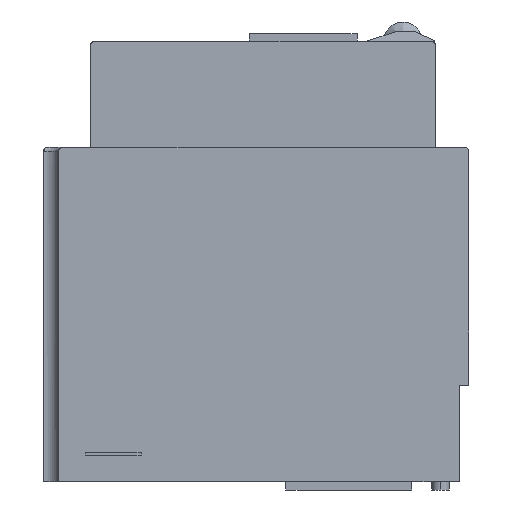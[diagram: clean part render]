
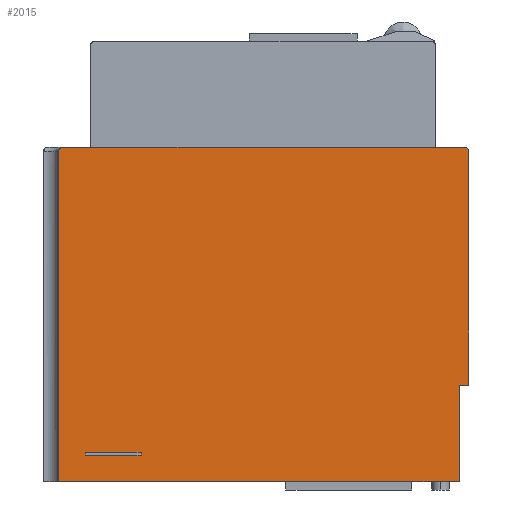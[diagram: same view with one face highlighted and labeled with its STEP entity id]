
A CAD part, left-side view. The second image highlights one B-rep face of the part: STEP entity #2015.
In plain terms, the highlighted planar face has unit normal (-1, 0, 0).
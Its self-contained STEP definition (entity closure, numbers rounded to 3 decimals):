
#58 = VERTEX_POINT ( 'NONE', #882 ) ;
#76 = VECTOR ( 'NONE', #2221, 1000. ) ;
#109 = EDGE_CURVE ( 'NONE', #525, #1826, #2284, .T. ) ;
#182 = CARTESIAN_POINT ( 'NONE',  ( -70., 65.6, 106.5 ) ) ;
#224 = CARTESIAN_POINT ( 'NONE',  ( -70., 95.1, 96. ) ) ;
#340 = AXIS2_PLACEMENT_3D ( 'NONE', #4150, #2337, #2656 ) ;
#375 = CARTESIAN_POINT ( 'NONE',  ( -70., 93.6, 215.5 ) ) ;
#396 = DIRECTION ( 'NONE',  ( 0., 0., -1. ) ) ;
#425 = CARTESIAN_POINT ( 'NONE',  ( -70., 93.6, 214. ) ) ;
#502 = ORIENTED_EDGE ( 'NONE', *, *, #3382, .F. ) ;
#525 = VERTEX_POINT ( 'NONE', #3117 ) ;
#599 = LINE ( 'NONE', #182, #1371 ) ;
#610 = DIRECTION ( 'NONE',  ( 0., -1., 0. ) ) ;
#719 = CARTESIAN_POINT ( 'NONE',  ( -70., 85.6, 106.5 ) ) ;
#721 = EDGE_CURVE ( 'NONE', #4448, #2929, #4358, .T. ) ;
#723 = ORIENTED_EDGE ( 'NONE', *, *, #3661, .F. ) ;
#744 = EDGE_CURVE ( 'NONE', #2178, #856, #1023, .T. ) ;
#757 = EDGE_LOOP ( 'NONE', ( #851, #2236, #2891, #502, #1853, #862, #1774, #723 ) ) ;
#814 = AXIS2_PLACEMENT_3D ( 'NONE', #911, #4102, #1949 ) ;
#851 = ORIENTED_EDGE ( 'NONE', *, *, #3397, .F. ) ;
#856 = VERTEX_POINT ( 'NONE', #4195 ) ;
#862 = ORIENTED_EDGE ( 'NONE', *, *, #3938, .F. ) ;
#878 = ORIENTED_EDGE ( 'NONE', *, *, #2438, .F. ) ;
#882 = CARTESIAN_POINT ( 'NONE',  ( -70., 65.6, 105.5 ) ) ;
#911 = CARTESIAN_POINT ( 'NONE',  ( -70., 99.1, 214. ) ) ;
#925 = AXIS2_PLACEMENT_3D ( 'NONE', #425, #3239, #4285 ) ;
#928 = LINE ( 'NONE', #2397, #2235 ) ;
#948 = CARTESIAN_POINT ( 'NONE',  ( -70., -50.1, 215.5 ) ) ;
#960 = VERTEX_POINT ( 'NONE', #1869 ) ;
#972 = CIRCLE ( 'NONE', #340, 1.5 ) ;
#1023 = CIRCLE ( 'NONE', #925, 1.5 ) ;
#1093 = EDGE_CURVE ( 'NONE', #960, #1115, #2070, .T. ) ;
#1115 = VERTEX_POINT ( 'NONE', #1263 ) ;
#1221 = CARTESIAN_POINT ( 'NONE',  ( -70., 85.6, 106.5 ) ) ;
#1230 = DIRECTION ( 'NONE',  ( 0., 0., 1. ) ) ;
#1263 = CARTESIAN_POINT ( 'NONE',  ( -70., -48.1, 96. ) ) ;
#1313 = ORIENTED_EDGE ( 'NONE', *, *, #2479, .F. ) ;
#1371 = VECTOR ( 'NONE', #3322, 1000. ) ;
#1377 = VERTEX_POINT ( 'NONE', #4580 ) ;
#1431 = CARTESIAN_POINT ( 'NONE',  ( -70., -48.1, 130.5 ) ) ;
#1534 = VECTOR ( 'NONE', #1230, 1000. ) ;
#1591 = DIRECTION ( 'NONE',  ( 0., 0., -1. ) ) ;
#1606 = PLANE ( 'NONE',  #814 ) ;
#1629 = EDGE_CURVE ( 'NONE', #2929, #58, #2826, .T. ) ;
#1774 = ORIENTED_EDGE ( 'NONE', *, *, #109, .F. ) ;
#1826 = VERTEX_POINT ( 'NONE', #3518 ) ;
#1853 = ORIENTED_EDGE ( 'NONE', *, *, #1093, .F. ) ;
#1863 = ORIENTED_EDGE ( 'NONE', *, *, #1629, .F. ) ;
#1869 = CARTESIAN_POINT ( 'NONE',  ( -70., -48.1, 130.5 ) ) ;
#1884 = CARTESIAN_POINT ( 'NONE',  ( -70., -51.6, 214. ) ) ;
#1949 = DIRECTION ( 'NONE',  ( 0., 0., -1. ) ) ;
#2004 = EDGE_LOOP ( 'NONE', ( #1313, #1863, #3644, #878 ) ) ;
#2015 = ADVANCED_FACE ( 'NONE', ( #2056, #3667 ), #1606, .F. ) ;
#2056 = FACE_BOUND ( 'NONE', #2004, .T. ) ;
#2070 = LINE ( 'NONE', #3007, #2287 ) ;
#2074 = VERTEX_POINT ( 'NONE', #3350 ) ;
#2091 = DIRECTION ( 'NONE',  ( 0., 0., -1. ) ) ;
#2178 = VERTEX_POINT ( 'NONE', #375 ) ;
#2221 = DIRECTION ( 'NONE',  ( 0., 0., -1. ) ) ;
#2235 = VECTOR ( 'NONE', #3110, 1000. ) ;
#2236 = ORIENTED_EDGE ( 'NONE', *, *, #744, .T. ) ;
#2280 = VECTOR ( 'NONE', #396, 1000. ) ;
#2284 = LINE ( 'NONE', #1884, #76 ) ;
#2287 = VECTOR ( 'NONE', #1591, 1000. ) ;
#2337 = DIRECTION ( 'NONE',  ( 1., 0., 0. ) ) ;
#2397 = CARTESIAN_POINT ( 'NONE',  ( -70., 100.6, 96. ) ) ;
#2438 = EDGE_CURVE ( 'NONE', #1377, #4448, #599, .T. ) ;
#2479 = EDGE_CURVE ( 'NONE', #58, #1377, #4096, .T. ) ;
#2636 = CARTESIAN_POINT ( 'NONE',  ( -70., 65.6, 105.5 ) ) ;
#2656 = DIRECTION ( 'NONE',  ( 0., 0., -1. ) ) ;
#2675 = VECTOR ( 'NONE', #3831, 1000. ) ;
#2692 = CARTESIAN_POINT ( 'NONE',  ( -70., 85.6, 105.5 ) ) ;
#2758 = CARTESIAN_POINT ( 'NONE',  ( -70., 85.6, 105.5 ) ) ;
#2770 = LINE ( 'NONE', #4311, #2280 ) ;
#2826 = LINE ( 'NONE', #2692, #3393 ) ;
#2882 = VECTOR ( 'NONE', #3908, 1000. ) ;
#2891 = ORIENTED_EDGE ( 'NONE', *, *, #4056, .T. ) ;
#2929 = VERTEX_POINT ( 'NONE', #2758 ) ;
#3007 = CARTESIAN_POINT ( 'NONE',  ( -70., -48.1, 96. ) ) ;
#3110 = DIRECTION ( 'NONE',  ( 0., 1., 0. ) ) ;
#3117 = CARTESIAN_POINT ( 'NONE',  ( -70., -51.6, 214. ) ) ;
#3239 = DIRECTION ( 'NONE',  ( -1., 0., 0. ) ) ;
#3322 = DIRECTION ( 'NONE',  ( 0., 1., 0. ) ) ;
#3350 = CARTESIAN_POINT ( 'NONE',  ( -70., -50.1, 215.5 ) ) ;
#3382 = EDGE_CURVE ( 'NONE', #1115, #4462, #928, .T. ) ;
#3393 = VECTOR ( 'NONE', #610, 1000. ) ;
#3397 = EDGE_CURVE ( 'NONE', #2178, #2074, #3638, .T. ) ;
#3518 = CARTESIAN_POINT ( 'NONE',  ( -70., -51.6, 130.5 ) ) ;
#3638 = LINE ( 'NONE', #948, #2675 ) ;
#3644 = ORIENTED_EDGE ( 'NONE', *, *, #721, .F. ) ;
#3661 = EDGE_CURVE ( 'NONE', #2074, #525, #972, .T. ) ;
#3667 = FACE_OUTER_BOUND ( 'NONE', #757, .T. ) ;
#3784 = LINE ( 'NONE', #1431, #2882 ) ;
#3831 = DIRECTION ( 'NONE',  ( 0., -1., 0. ) ) ;
#3908 = DIRECTION ( 'NONE',  ( 0., 1., 0. ) ) ;
#3938 = EDGE_CURVE ( 'NONE', #1826, #960, #3784, .T. ) ;
#4056 = EDGE_CURVE ( 'NONE', #856, #4462, #2770, .T. ) ;
#4096 = LINE ( 'NONE', #2636, #1534 ) ;
#4102 = DIRECTION ( 'NONE',  ( 1., 0., 0. ) ) ;
#4150 = CARTESIAN_POINT ( 'NONE',  ( -70., -50.1, 214. ) ) ;
#4195 = CARTESIAN_POINT ( 'NONE',  ( -70., 95.1, 214. ) ) ;
#4285 = DIRECTION ( 'NONE',  ( 0., 0., -1. ) ) ;
#4311 = CARTESIAN_POINT ( 'NONE',  ( -70., 95.1, 214. ) ) ;
#4358 = LINE ( 'NONE', #719, #4587 ) ;
#4448 = VERTEX_POINT ( 'NONE', #1221 ) ;
#4462 = VERTEX_POINT ( 'NONE', #224 ) ;
#4580 = CARTESIAN_POINT ( 'NONE',  ( -70., 65.6, 106.5 ) ) ;
#4587 = VECTOR ( 'NONE', #2091, 1000. ) ;
